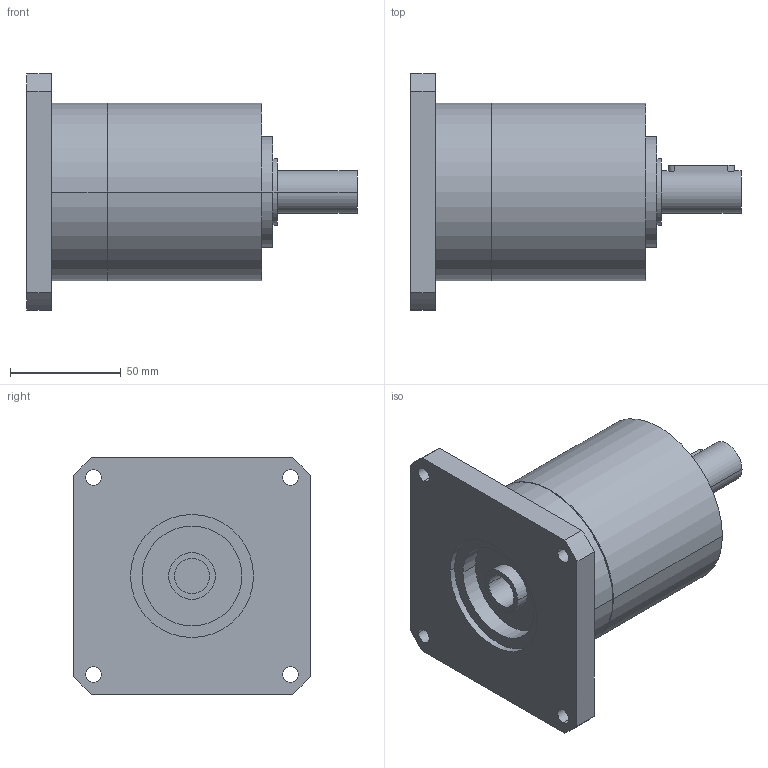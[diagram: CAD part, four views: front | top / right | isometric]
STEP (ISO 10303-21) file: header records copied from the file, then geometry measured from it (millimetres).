
FILE_DESCRIPTION(('CoCreate Modeling STEP Export'),'2;1');
FILE_NAME('GPR100_ig-3-4-5-6_19_B14_15.87_P02.stp','2014-08-26T10:07:31',(''),(''),'CoCreate Modeling STEP processor for AP214 (Solid Model)','CoCreate Modeling 16.00C 25-Feb-2009 (C) Parametric Technology GmbH','');
FILE_SCHEMA(('AUTOMOTIVE_DESIGN { 1 0 10303 214 1 1 1 1 }'));
Length unit declared in the file: millimetre
Products named in the file (2): GPR100_ig-3-4-5-6_19_B14_15.87_P02
Assembly tree (1 placements, depth 2):
  GPR100_ig-3-4-5-6_19_B14_15.87_P02
    GPR100_ig-3-4-5-6_19_B14_15.87_P02
Bounding box: 149 x 106.5 x 106.5 mm (x, y, z)
Volume: 594002.7 mm3; surface area: 60407.7 mm2
Topology: 1 solids, 1 shells, 70 faces, 187 edges, 131 vertices
Faces by surface type: cylinder 42, plane 22, cone 6
Entity records: 1934 total; most frequent: ORIENTED_EDGE 370, CARTESIAN_POINT 359, DIRECTION 262, EDGE_CURVE 185, VERTEX_POINT 131, AXIS2_PLACEMENT_3D 98, EDGE_LOOP 92, FACE_OUTER_BOUND 70
